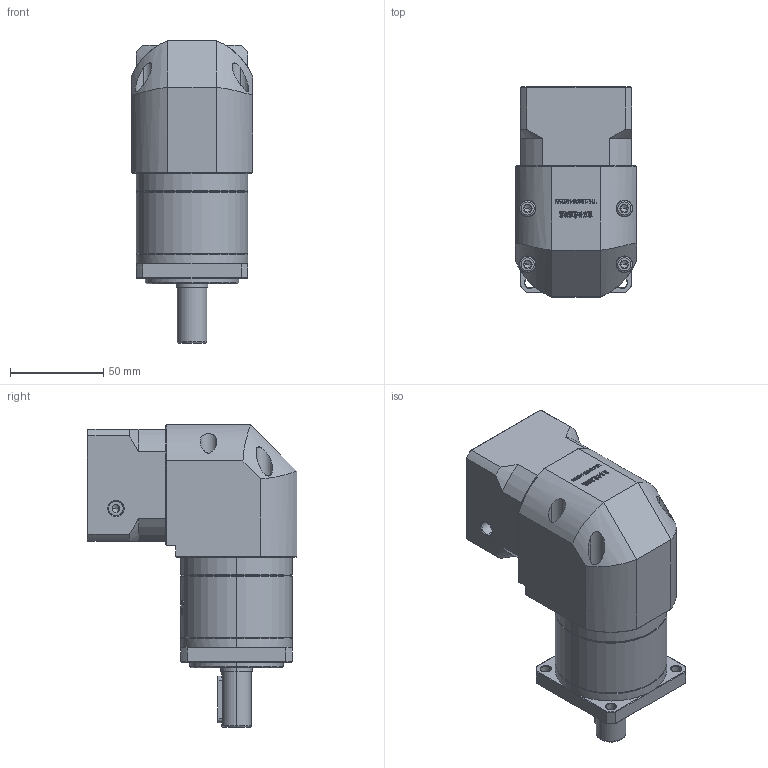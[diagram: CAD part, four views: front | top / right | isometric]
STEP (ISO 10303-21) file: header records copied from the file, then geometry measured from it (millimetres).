
FILE_DESCRIPTION (( 'STEP AP214' ), '1' );
FILE_NAME ('ZFR60-D16-L1-6.35-38.1-47.14x47.14-M4.STEP', '2022-04-20T08:05:11', ( '' ), ( 'Microsoft' ), 'SwSTEP 2.0', 'SolidWorks 2016', '' );
FILE_SCHEMA (( 'AUTOMOTIVE_DESIGN' ));
Length unit declared in the file: millimetre
Products named in the file (1): ZFR60-D16-L1-6.35-38.1-47.14x47.14-M4
Bounding box: 65 x 112.7 x 162.5 mm (x, y, z)
Volume: 543551.3 mm3; surface area: 80226.3 mm2
Topology: 5 solids, 6 shells, 2688 faces, 7302 edges, 4752 vertices
Faces by surface type: plane 1398, bspline 591, cylinder 396, cone 291, torus 12
Entity records: 147087 total; most frequent: CARTESIAN_POINT 55396, ORIENTED_EDGE 14560, DIRECTION 10431, EDGE_CURVE 7280, VERTEX_POINT 4752, LINE 4385, VECTOR 4385, AXIS2_PLACEMENT_3D 3023
